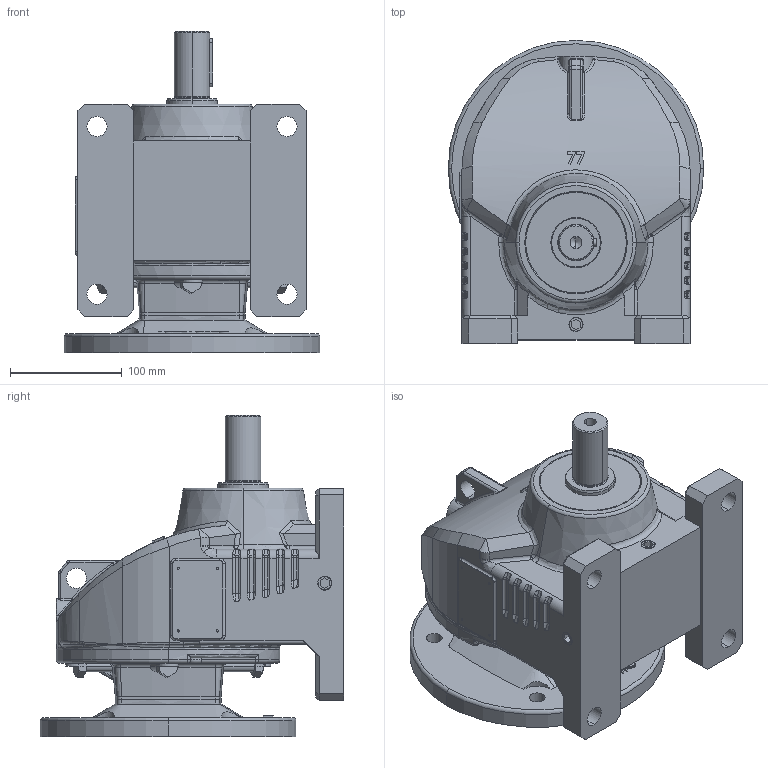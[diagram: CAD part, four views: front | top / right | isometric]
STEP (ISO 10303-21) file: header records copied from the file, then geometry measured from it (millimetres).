
FILE_DESCRIPTION (( 'STEP AP203' ), '1' );
FILE_NAME ('RX077HF-182TC.STEP', '2015-03-16T05:34:18', ( 'user' ), ( '' ), 'SwSTEP 2.0', 'SolidWorks 2012', '' );
FILE_SCHEMA (( 'CONFIG_CONTROL_DESIGN' ));
Length unit declared in the file: millimetre
Products named in the file (26): RX077HF-182TC; PCA025; PCA040_JIS B 2804 Shaft use 40; PCB090; PSS045090101; PBA6308_SKF - 6308 - 10,DE,NC,10_68; JKGB07788L_JKGB07788L; 077ªkÄõ¤J¤O²Õ¦X182T_3HP-¡í16; PJB02; PCA016_PCA016; P103_JKGA1621R; PKD0505015; PBA6009; PBA6009_PBA6009; PWS10; PTBA10030; PSS045060091; PTAA10035; KFGG182T; MNGH182TSS2_MNGH182TSS2; JHGA07703; PKD0807018S; PKD1_4043; PBA6306; KEGX077; JCHX077
Assembly tree (38 placements, depth 3):
  RX077HF-182TC
    JCHX077
    KEGX077
    PBA6306
    PKD1_4043
    PKD0807018S
    077ªkÄõ¤J¤O²Õ¦X182T_3HP-¡í16
      JHGA07703
      MNGH182TSS2_MNGH182TSS2
      KFGG182T
      PTAA10035  x4
      PSS045060091
      PTBA10030  x4
      PWS10  x4
      PBA6009_PBA6009
      PKD0505015
      P103_JKGA1621R
      PCA016_PCA016
      PJB02
    JKGB07788L_JKGB07788L
    PJB02  x5
    PBA6308_SKF - 6308 - 10,DE,NC,10_68
    PSS045090101
    PCB090
    PCA040_JIS B 2804 Shaft use 40
    PCA025
  PBA6009
Bounding box: 228.6 x 271.3 x 287.2 mm (x, y, z)
Volume: 3275037 mm3; surface area: 773422.5 mm2
Topology: 37 solids, 39 shells, 1836 faces, 4939 edges, 3086 vertices
Faces by surface type: cylinder 542, plane 531, torus 249, bspline 248, cone 186, sphere 80
Entity records: 72806 total; most frequent: CARTESIAN_POINT 30485, ORIENTED_EDGE 8654, DIRECTION 7737, EDGE_CURVE 4327, AXIS2_PLACEMENT_3D 3161, VERTEX_POINT 2748, EDGE_LOOP 1839, CIRCLE 1715
